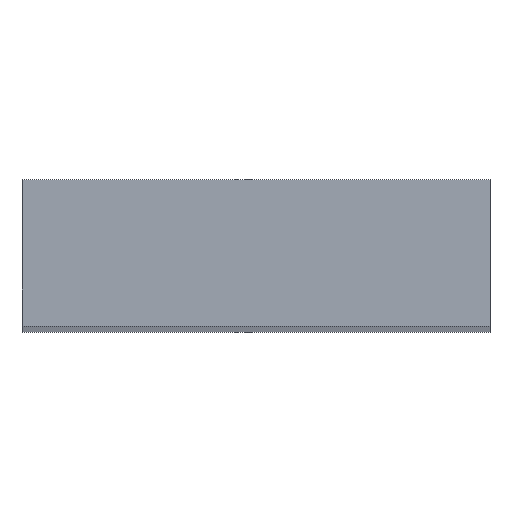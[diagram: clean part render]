
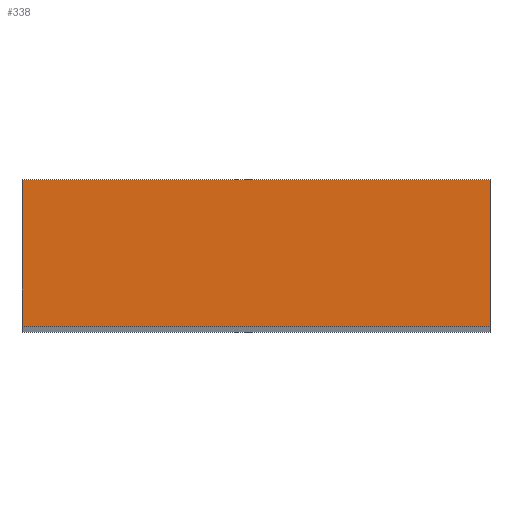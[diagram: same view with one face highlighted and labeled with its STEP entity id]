
A CAD part, top view. The second image highlights one B-rep face of the part: STEP entity #338.
In plain terms, the highlighted planar face has unit normal (0, 0, 1).
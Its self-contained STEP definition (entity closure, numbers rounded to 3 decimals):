
#24 = VERTEX_POINT('',#25);
#25 = CARTESIAN_POINT('',(25.2,-5.25,-4.3));
#32 = PLANE('',#33);
#33 = AXIS2_PLACEMENT_3D('',#34,#35,#36);
#34 = CARTESIAN_POINT('',(25.2,-5.25,-10.3));
#35 = DIRECTION('',(1.,0.,-0.));
#36 = DIRECTION('',(0.,0.,1.));
#44 = PLANE('',#45);
#45 = AXIS2_PLACEMENT_3D('',#46,#47,#48);
#46 = CARTESIAN_POINT('',(25.2,-5.25,-10.3));
#47 = DIRECTION('',(-0.,1.,0.));
#48 = DIRECTION('',(0.,0.,1.));
#85 = VERTEX_POINT('',#86);
#86 = CARTESIAN_POINT('',(25.2,-5.,-4.3));
#100 = PLANE('',#101);
#101 = AXIS2_PLACEMENT_3D('',#102,#103,#104);
#102 = CARTESIAN_POINT('',(25.2,-5.,-10.3));
#103 = DIRECTION('',(-0.,1.,0.));
#104 = DIRECTION('',(0.,0.,1.));
#112 = EDGE_CURVE('',#24,#85,#113,.T.);
#113 = SURFACE_CURVE('',#114,(#118,#125),.PCURVE_S1.);
#114 = LINE('',#115,#116);
#115 = CARTESIAN_POINT('',(25.2,-5.25,-4.3));
#116 = VECTOR('',#117,1.);
#117 = DIRECTION('',(-0.,1.,0.));
#118 = PCURVE('',#32,#119);
#119 = DEFINITIONAL_REPRESENTATION('',(#120),#124);
#120 = LINE('',#121,#122);
#121 = CARTESIAN_POINT('',(6.,0.));
#122 = VECTOR('',#123,1.);
#123 = DIRECTION('',(0.,-1.));
#124 = ( GEOMETRIC_REPRESENTATION_CONTEXT(2) 
PARAMETRIC_REPRESENTATION_CONTEXT() REPRESENTATION_CONTEXT('2D SPACE',''
  ) );
#125 = PCURVE('',#126,#131);
#126 = PLANE('',#127);
#127 = AXIS2_PLACEMENT_3D('',#128,#129,#130);
#128 = CARTESIAN_POINT('',(25.2,-5.25,-4.3));
#129 = DIRECTION('',(0.,0.,1.));
#130 = DIRECTION('',(1.,0.,-0.));
#131 = DEFINITIONAL_REPRESENTATION('',(#132),#136);
#132 = LINE('',#133,#134);
#133 = CARTESIAN_POINT('',(0.,0.));
#134 = VECTOR('',#135,1.);
#135 = DIRECTION('',(0.,1.));
#136 = ( GEOMETRIC_REPRESENTATION_CONTEXT(2) 
PARAMETRIC_REPRESENTATION_CONTEXT() REPRESENTATION_CONTEXT('2D SPACE',''
  ) );
#144 = VERTEX_POINT('',#145);
#145 = CARTESIAN_POINT('',(26.,-5.25,-4.3));
#152 = PLANE('',#153);
#153 = AXIS2_PLACEMENT_3D('',#154,#155,#156);
#154 = CARTESIAN_POINT('',(26.,-5.25,-10.3));
#155 = DIRECTION('',(1.,0.,-0.));
#156 = DIRECTION('',(0.,0.,1.));
#195 = VERTEX_POINT('',#196);
#196 = CARTESIAN_POINT('',(26.,-5.,-4.3));
#217 = EDGE_CURVE('',#144,#195,#218,.T.);
#218 = SURFACE_CURVE('',#219,(#223,#230),.PCURVE_S1.);
#219 = LINE('',#220,#221);
#220 = CARTESIAN_POINT('',(26.,-5.25,-4.3));
#221 = VECTOR('',#222,1.);
#222 = DIRECTION('',(-0.,1.,0.));
#223 = PCURVE('',#152,#224);
#224 = DEFINITIONAL_REPRESENTATION('',(#225),#229);
#225 = LINE('',#226,#227);
#226 = CARTESIAN_POINT('',(6.,0.));
#227 = VECTOR('',#228,1.);
#228 = DIRECTION('',(0.,-1.));
#229 = ( GEOMETRIC_REPRESENTATION_CONTEXT(2) 
PARAMETRIC_REPRESENTATION_CONTEXT() REPRESENTATION_CONTEXT('2D SPACE',''
  ) );
#230 = PCURVE('',#126,#231);
#231 = DEFINITIONAL_REPRESENTATION('',(#232),#236);
#232 = LINE('',#233,#234);
#233 = CARTESIAN_POINT('',(0.8,0.));
#234 = VECTOR('',#235,1.);
#235 = DIRECTION('',(0.,1.));
#236 = ( GEOMETRIC_REPRESENTATION_CONTEXT(2) 
PARAMETRIC_REPRESENTATION_CONTEXT() REPRESENTATION_CONTEXT('2D SPACE',''
  ) );
#263 = EDGE_CURVE('',#24,#144,#264,.T.);
#264 = SURFACE_CURVE('',#265,(#269,#276),.PCURVE_S1.);
#265 = LINE('',#266,#267);
#266 = CARTESIAN_POINT('',(25.2,-5.25,-4.3));
#267 = VECTOR('',#268,1.);
#268 = DIRECTION('',(1.,0.,-0.));
#269 = PCURVE('',#44,#270);
#270 = DEFINITIONAL_REPRESENTATION('',(#271),#275);
#271 = LINE('',#272,#273);
#272 = CARTESIAN_POINT('',(6.,0.));
#273 = VECTOR('',#274,1.);
#274 = DIRECTION('',(0.,1.));
#275 = ( GEOMETRIC_REPRESENTATION_CONTEXT(2) 
PARAMETRIC_REPRESENTATION_CONTEXT() REPRESENTATION_CONTEXT('2D SPACE',''
  ) );
#276 = PCURVE('',#126,#277);
#277 = DEFINITIONAL_REPRESENTATION('',(#278),#282);
#278 = LINE('',#279,#280);
#279 = CARTESIAN_POINT('',(0.,0.));
#280 = VECTOR('',#281,1.);
#281 = DIRECTION('',(1.,0.));
#282 = ( GEOMETRIC_REPRESENTATION_CONTEXT(2) 
PARAMETRIC_REPRESENTATION_CONTEXT() REPRESENTATION_CONTEXT('2D SPACE',''
  ) );
#310 = EDGE_CURVE('',#85,#195,#311,.T.);
#311 = SURFACE_CURVE('',#312,(#316,#323),.PCURVE_S1.);
#312 = LINE('',#313,#314);
#313 = CARTESIAN_POINT('',(25.2,-5.,-4.3));
#314 = VECTOR('',#315,1.);
#315 = DIRECTION('',(1.,0.,-0.));
#316 = PCURVE('',#100,#317);
#317 = DEFINITIONAL_REPRESENTATION('',(#318),#322);
#318 = LINE('',#319,#320);
#319 = CARTESIAN_POINT('',(6.,0.));
#320 = VECTOR('',#321,1.);
#321 = DIRECTION('',(0.,1.));
#322 = ( GEOMETRIC_REPRESENTATION_CONTEXT(2) 
PARAMETRIC_REPRESENTATION_CONTEXT() REPRESENTATION_CONTEXT('2D SPACE',''
  ) );
#323 = PCURVE('',#126,#324);
#324 = DEFINITIONAL_REPRESENTATION('',(#325),#329);
#325 = LINE('',#326,#327);
#326 = CARTESIAN_POINT('',(0.,0.25));
#327 = VECTOR('',#328,1.);
#328 = DIRECTION('',(1.,0.));
#329 = ( GEOMETRIC_REPRESENTATION_CONTEXT(2) 
PARAMETRIC_REPRESENTATION_CONTEXT() REPRESENTATION_CONTEXT('2D SPACE',''
  ) );
#338 = ADVANCED_FACE('',(#339),#126,.T.);
#339 = FACE_BOUND('',#340,.T.);
#340 = EDGE_LOOP('',(#341,#342,#343,#344));
#341 = ORIENTED_EDGE('',*,*,#112,.F.);
#342 = ORIENTED_EDGE('',*,*,#263,.T.);
#343 = ORIENTED_EDGE('',*,*,#217,.T.);
#344 = ORIENTED_EDGE('',*,*,#310,.F.);
